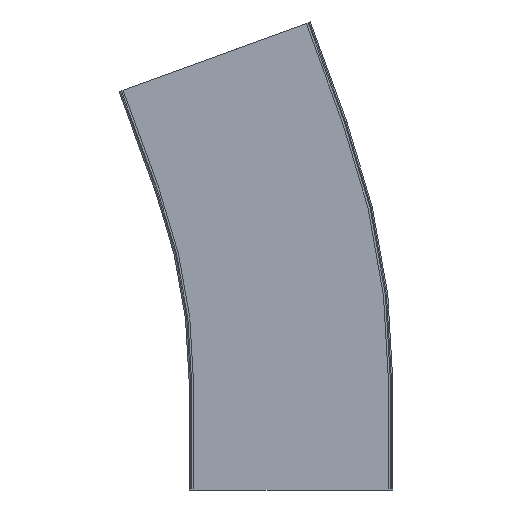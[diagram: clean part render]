
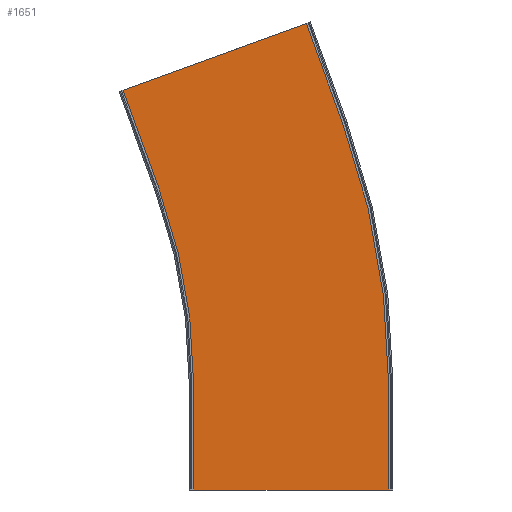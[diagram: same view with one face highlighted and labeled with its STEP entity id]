
A CAD part, left-side view. The second image highlights one B-rep face of the part: STEP entity #1651.
In plain terms, the highlighted planar face has unit normal (-1, 0, 0).
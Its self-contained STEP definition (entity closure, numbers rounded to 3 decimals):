
#27 = CARTESIAN_POINT ( 'NONE',  ( -247., 99.127, 225.906 ) ) ;
#59 = DIRECTION ( 'NONE',  ( 0., 0.342, 0.94 ) ) ;
#324 = LINE ( 'NONE', #27, #2156 ) ;
#396 = VECTOR ( 'NONE', #848, 1000. ) ;
#430 = CARTESIAN_POINT ( 'NONE',  ( -247., 500., 80. ) ) ;
#490 = CARTESIAN_POINT ( 'NONE',  ( -247., -73.4, 80. ) ) ;
#654 = EDGE_CURVE ( 'NONE', #662, #1304, #2095, .T. ) ;
#656 = CARTESIAN_POINT ( 'NONE',  ( -247., 73.4, 80. ) ) ;
#662 = VERTEX_POINT ( 'NONE', #3233 ) ;
#679 = DIRECTION ( 'NONE',  ( -1., 0., 0. ) ) ;
#680 = ORIENTED_EDGE ( 'NONE', *, *, #2358, .T. ) ;
#690 = VECTOR ( 'NONE', #59, 1000. ) ;
#783 = CIRCLE ( 'NONE', #3050, 426.6 ) ;
#798 = DIRECTION ( 'NONE',  ( 0., 0., -1. ) ) ;
#831 = EDGE_LOOP ( 'NONE', ( #1277, #2823, #1609, #2799, #1568, #3082, #2453, #680 ) ) ;
#848 = DIRECTION ( 'NONE',  ( 0., 0., -1. ) ) ;
#1082 = CARTESIAN_POINT ( 'NONE',  ( -247., -11.458, 351.29 ) ) ;
#1084 = VERTEX_POINT ( 'NONE', #490 ) ;
#1091 = VECTOR ( 'NONE', #2167, 1000. ) ;
#1104 = LINE ( 'NONE', #3210, #1923 ) ;
#1277 = ORIENTED_EDGE ( 'NONE', *, *, #654, .T. ) ;
#1293 = CARTESIAN_POINT ( 'NONE',  ( -247., -38.82, 276.114 ) ) ;
#1304 = VERTEX_POINT ( 'NONE', #2556 ) ;
#1330 = CARTESIAN_POINT ( 'NONE',  ( -247., -38.82, 276.114 ) ) ;
#1339 = PLANE ( 'NONE',  #2407 ) ;
#1345 = DIRECTION ( 'NONE',  ( -1., 0., 0. ) ) ;
#1396 = AXIS2_PLACEMENT_3D ( 'NONE', #430, #679, #2253 ) ;
#1475 = FACE_OUTER_BOUND ( 'NONE', #831, .T. ) ;
#1531 = VERTEX_POINT ( 'NONE', #2853 ) ;
#1568 = ORIENTED_EDGE ( 'NONE', *, *, #2297, .F. ) ;
#1609 = ORIENTED_EDGE ( 'NONE', *, *, #1899, .T. ) ;
#1618 = EDGE_CURVE ( 'NONE', #2307, #1687, #324, .T. ) ;
#1649 = DIRECTION ( 'NONE',  ( 0., -1., 0. ) ) ;
#1651 = ADVANCED_FACE ( 'NONE', ( #1475 ), #1339, .F. ) ;
#1687 = VERTEX_POINT ( 'NONE', #2144 ) ;
#1795 = LINE ( 'NONE', #1330, #690 ) ;
#1899 = EDGE_CURVE ( 'NONE', #1084, #3020, #2472, .T. ) ;
#1923 = VECTOR ( 'NONE', #798, 1000. ) ;
#1974 = VERTEX_POINT ( 'NONE', #656 ) ;
#2095 = LINE ( 'NONE', #2965, #3142 ) ;
#2123 = DIRECTION ( 'NONE',  ( 1., 0., 0. ) ) ;
#2144 = CARTESIAN_POINT ( 'NONE',  ( -247., 126.489, 301.081 ) ) ;
#2156 = VECTOR ( 'NONE', #2351, 1000. ) ;
#2167 = DIRECTION ( 'NONE',  ( 0., -0.94, 0.342 ) ) ;
#2224 = EDGE_CURVE ( 'NONE', #3020, #1531, #1795, .T. ) ;
#2253 = DIRECTION ( 'NONE',  ( 0., 0., 1. ) ) ;
#2297 = EDGE_CURVE ( 'NONE', #1687, #1531, #2641, .T. ) ;
#2307 = VERTEX_POINT ( 'NONE', #2391 ) ;
#2351 = DIRECTION ( 'NONE',  ( 0., 0.342, 0.94 ) ) ;
#2358 = EDGE_CURVE ( 'NONE', #1974, #662, #2558, .T. ) ;
#2391 = CARTESIAN_POINT ( 'NONE',  ( -247., 99.127, 225.906 ) ) ;
#2399 = DIRECTION ( 'NONE',  ( 0., 0., -1. ) ) ;
#2407 = AXIS2_PLACEMENT_3D ( 'NONE', #2650, #2123, #2399 ) ;
#2453 = ORIENTED_EDGE ( 'NONE', *, *, #2852, .F. ) ;
#2472 = CIRCLE ( 'NONE', #1396, 573.4 ) ;
#2556 = CARTESIAN_POINT ( 'NONE',  ( -247., -73.4, 0. ) ) ;
#2558 = LINE ( 'NONE', #2687, #396 ) ;
#2641 = LINE ( 'NONE', #1082, #1091 ) ;
#2649 = DIRECTION ( 'NONE',  ( 0., 0., 1. ) ) ;
#2650 = CARTESIAN_POINT ( 'NONE',  ( -247., -73.4, 80. ) ) ;
#2687 = CARTESIAN_POINT ( 'NONE',  ( -247., 73.4, 80. ) ) ;
#2799 = ORIENTED_EDGE ( 'NONE', *, *, #2224, .T. ) ;
#2823 = ORIENTED_EDGE ( 'NONE', *, *, #3138, .F. ) ;
#2852 = EDGE_CURVE ( 'NONE', #1974, #2307, #783, .T. ) ;
#2853 = CARTESIAN_POINT ( 'NONE',  ( -247., -11.458, 351.29 ) ) ;
#2872 = CARTESIAN_POINT ( 'NONE',  ( -247., 500., 80. ) ) ;
#2965 = CARTESIAN_POINT ( 'NONE',  ( -247., -73.4, 0. ) ) ;
#3020 = VERTEX_POINT ( 'NONE', #1293 ) ;
#3050 = AXIS2_PLACEMENT_3D ( 'NONE', #2872, #1345, #2649 ) ;
#3082 = ORIENTED_EDGE ( 'NONE', *, *, #1618, .F. ) ;
#3138 = EDGE_CURVE ( 'NONE', #1084, #1304, #1104, .T. ) ;
#3142 = VECTOR ( 'NONE', #1649, 1000. ) ;
#3210 = CARTESIAN_POINT ( 'NONE',  ( -247., -73.4, 80. ) ) ;
#3233 = CARTESIAN_POINT ( 'NONE',  ( -247., 73.4, 0. ) ) ;
